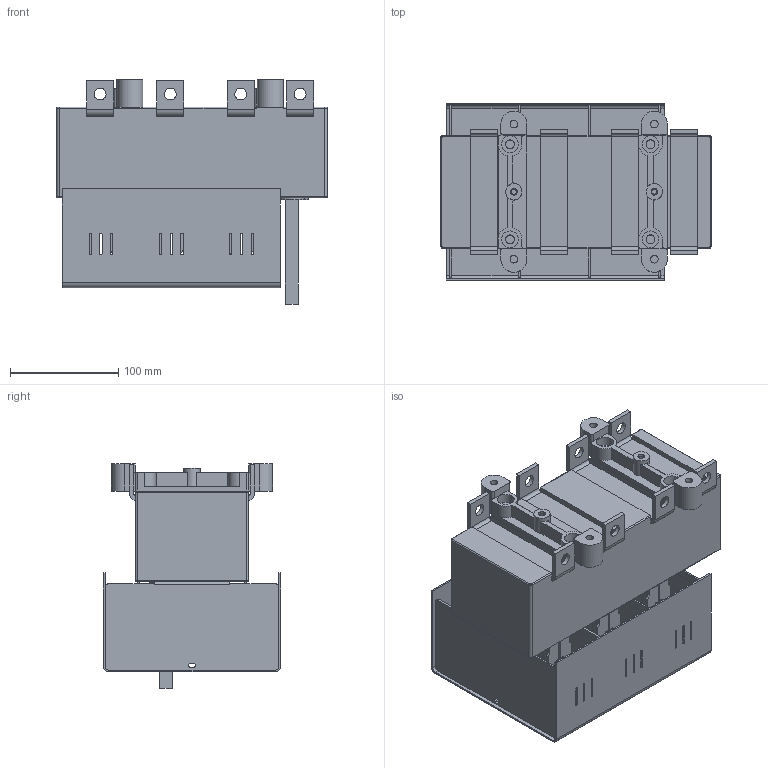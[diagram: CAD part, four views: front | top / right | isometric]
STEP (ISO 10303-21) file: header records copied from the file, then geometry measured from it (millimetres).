
FILE_DESCRIPTION(/* description */ (''),/* implementation_level */ '2;1');
FILE_NAME(/* name */ 'RAB 1 P3 NC.stp',/* time_stamp */ '2021-08-19T13:03:53+02:00',/* author */ (''),/* organization */ (''),/* preprocessor_version */ 'ST-DEVELOPER v18.1',/* originating_system */ 'SIEMENS PLM Software NX 1965',/* authorisation */ '');
FILE_SCHEMA (('AUTOMOTIVE_DESIGN { 1 0 10303 214 3 1 1 1 }'));
Length unit declared in the file: millimetre
Products named in the file (1): RAB 1 P3 NC_stp
Bounding box: 250 x 164 x 207.3 mm (x, y, z)
Volume: 2446406.3 mm3; surface area: 433189.4 mm2
Topology: 1 solids, 1 shells, 1042 faces, 2886 edges, 1878 vertices
Faces by surface type: plane 684, cylinder 350, torus 5, bspline 3
Full cylindrical faces by diameter (mm): 4.8 x2, 6.2 x2, 7 x4, 8.2 x4, 11 x8, 14 x4, 15 x2, 15.5 x4
Entity records: 33313 total; most frequent: CARTESIAN_POINT 5856, ORIENTED_EDGE 5704, DIRECTION 5684, EDGE_CURVE 2852, LINE 2088, VECTOR 2088, VERTEX_POINT 1874, AXIS2_PLACEMENT_3D 1798
